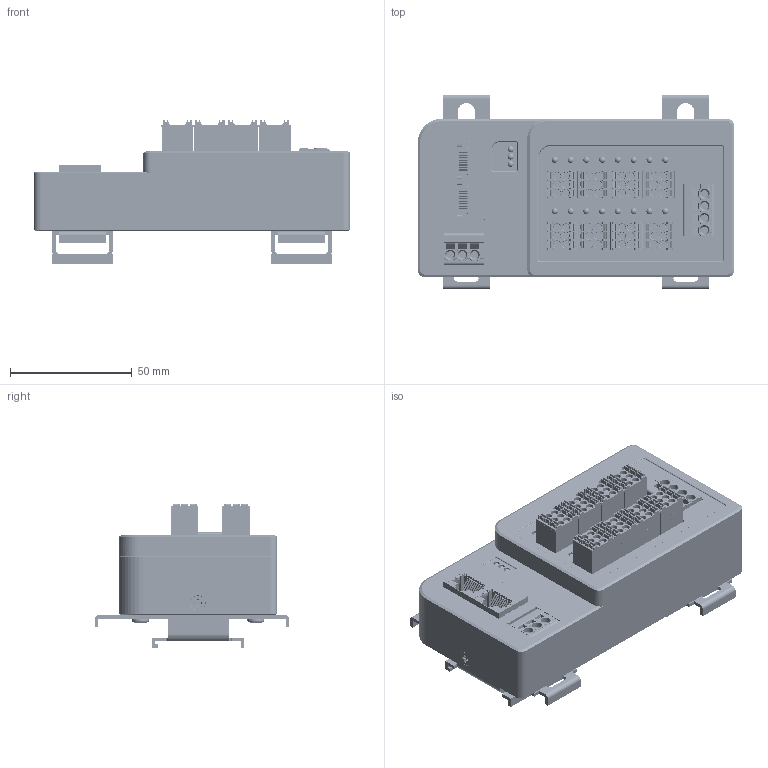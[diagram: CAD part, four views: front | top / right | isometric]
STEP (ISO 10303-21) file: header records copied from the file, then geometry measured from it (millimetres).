
FILE_DESCRIPTION((''),'2;1');
FILE_NAME('MR-0001_ASM','2024-12-02T00:18:40',('huang'),('yulong DESIGN'),'CREO PARAMETRIC BY PTC INC, 2021023','CREO PARAMETRIC BY PTC INC, 2021023','');
FILE_SCHEMA(('AUTOMOTIVE_DESIGN { 1 0 10303 214 1 1 1 1 }'));
Products named in the file (27): MR5101-EA_SKEL_3_1; FRONT_COVER_MR5101_36_1; REAR_COVER_MR5101_19_1; FRONT_PCBA_MR5101_24_1; REAR_PCBA_COMMON_26_1; DIN35_LATCH_L80_4_1_1; DIN35_LATCH_L80_4_2_1; DIN35_LATCH_L80_4_ASM_1_ASM; LIGHT_PIPE_11D7_PWR_13_1; LIGHT_PIPE_10_IO_6_1; SCREW_PH_M2D5X5_4_1; SCREW_FLAT_M3X8_6_1; SCREW_PH_M4X6_3_1; SCREWS_ASM_2_ASM_1_ASM; DINKLE_0177-5304_1; DINKLE_0177-5303_1; PIN001_0_1; 24_-400600_1; BOSS-EXTRUDE1_1; 24_-955100_1; HY951180A_0_ASM_1_ASM; HY951180A-ASM_1_ASM_1_ASM; MR5101-EA_ASM_40_ASM_1_ASM; MC-DPT3_5V06-BK-2000_44; MC-DRT3_5H06P-A-BK-0001_38; M-ALL_ASM_42_ASM; MR-0001_ASM
Assembly tree (63 placements, depth 5):
  MR-0001_ASM
    MR5101-EA_ASM_40_ASM_1_ASM
      MR5101-EA_SKEL_3_1
      FRONT_COVER_MR5101_36_1
      REAR_COVER_MR5101_19_1
      FRONT_PCBA_MR5101_24_1
      REAR_PCBA_COMMON_26_1
      DIN35_LATCH_L80_4_ASM_1_ASM  x2
        DIN35_LATCH_L80_4_1_1
        DIN35_LATCH_L80_4_2_1
      LIGHT_PIPE_11D7_PWR_13_1  x3
      LIGHT_PIPE_10_IO_6_1  x16
      SCREWS_ASM_2_ASM_1_ASM
        SCREW_PH_M2D5X5_4_1  x8
        SCREW_FLAT_M3X8_6_1  x2
        SCREW_PH_M4X6_3_1  x4
      DINKLE_0177-5304_1
      DINKLE_0177-5303_1
      HY951180A-ASM_1_ASM_1_ASM  x2
        PIN001_0_1
        HY951180A_0_ASM_1_ASM
          24_-400600_1
          BOSS-EXTRUDE1_1
          24_-955100_1
    M-ALL_ASM_42_ASM  x2
      MC-DPT3_5V06-BK-2000_44
      MC-DRT3_5H06P-A-BK-0001_38
Bounding box: 129.95 x 80 x 58.93 mm (x, y, z)
Volume: 130591 mm3; surface area: 135334.9 mm2
Topology: 65 solids, 183 shells, 10160 faces, 29402 edges, 19898 vertices
Faces by surface type: plane 5706, cylinder 3037, torus 508, cone 355, extrusion 264, bspline 217, sphere 49, revolution 24
Entity records: 143580 total; most frequent: CARTESIAN_POINT 38933, ORIENTED_EDGE 17576, DIRECTION 16461, EDGE_CURVE 9548, VERTEX_POINT 6728, VECTOR 5741, LINE 5705, AXIS2_PLACEMENT_3D 5358
